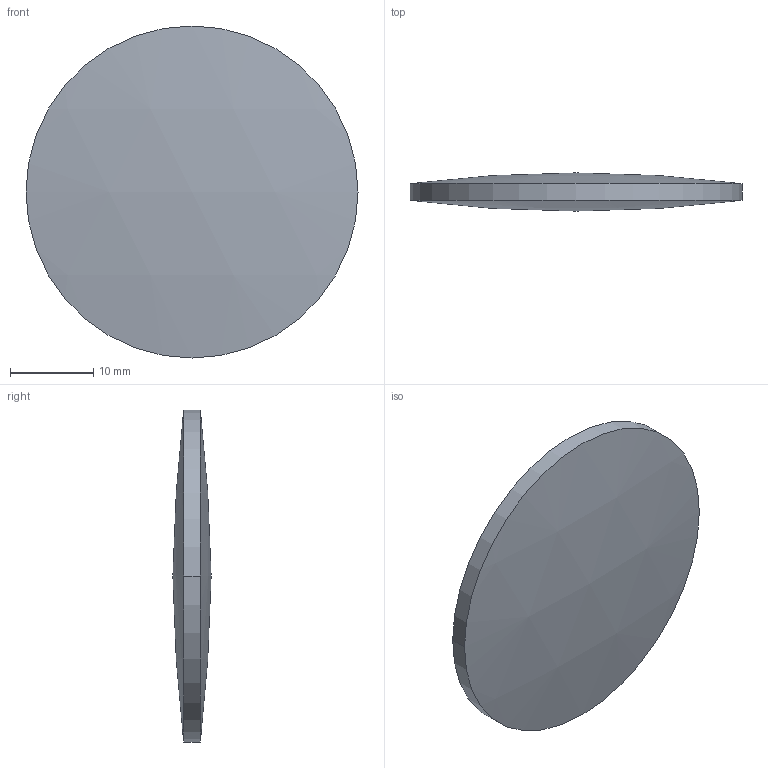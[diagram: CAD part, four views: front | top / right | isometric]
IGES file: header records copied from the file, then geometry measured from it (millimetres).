
Global section: file name: No Iges File Name specified; native system: AutoDesk Inventor R12.0; preprocessor: AutoDesk Inventor Iges Exporter R12.0; author: No Author specified; organization: No Organization specified; date: 20090514.145408; units: millimetre
Bounding box: 40 x 4.6 x 40 mm (x, y, z)
Volume: 4161.9 mm3; surface area: 2777.6 mm2
Topology: 1 solids, 1 shells, 4 faces, 6 edges, 4 vertices
Faces by surface type: cylinder 2, sphere 2
